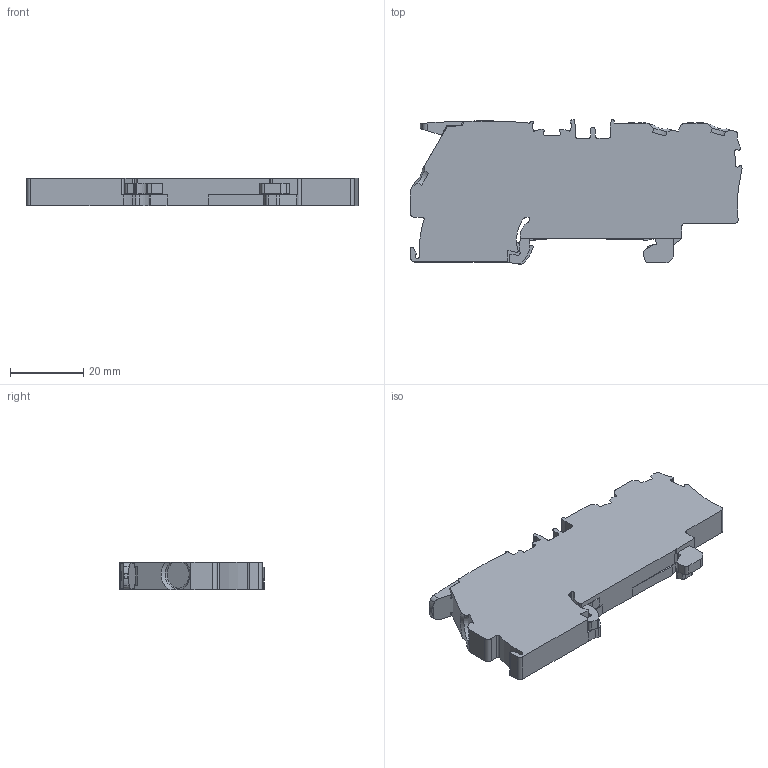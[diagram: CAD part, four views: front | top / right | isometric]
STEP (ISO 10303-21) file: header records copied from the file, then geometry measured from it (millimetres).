
FILE_DESCRIPTION( ( 'STEP AP214' ), ' ' );
FILE_NAME( 'U:/__temp/PartServer_Export/2106-5307.stp', '2018-07-05T13:20:00', ( '' ), ( '' ), ' ', 'PARTsolutions', ' ' );
FILE_SCHEMA( ( 'AUTOMOTIVE_DESIGN { 1 0 10303 214 1 1 1 1 }' ) );
Length unit declared in the file: millimetre
Products named in the file (1): _2106-5307
Bounding box: 90.8 x 39.5 x 7.5 mm (x, y, z)
Volume: 20256.8 mm3; surface area: 9272.3 mm2
Topology: 1 solids, 1 shells, 363 faces, 1058 edges, 702 vertices
Faces by surface type: plane 199, cylinder 148, torus 8, cone 8
Full cylindrical faces by diameter (mm): 2.1 x1, 2.2 x1
Entity records: 15152 total; most frequent: CARTESIAN_POINT 2441, ORIENTED_EDGE 2110, DIRECTION 2036, EDGE_CURVE 1055, VERTEX_POINT 702, LINE 686, VECTOR 686, AXIS2_PLACEMENT_3D 675
